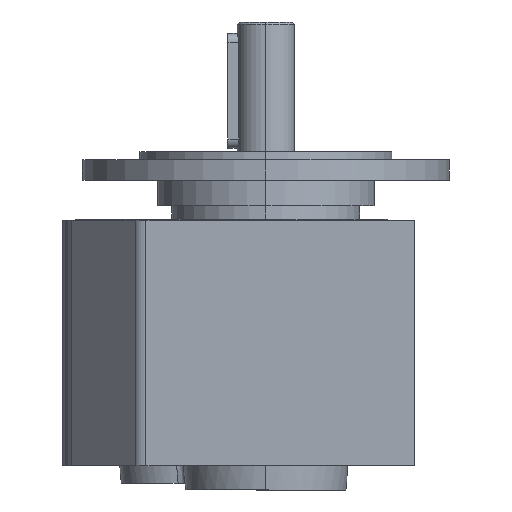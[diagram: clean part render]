
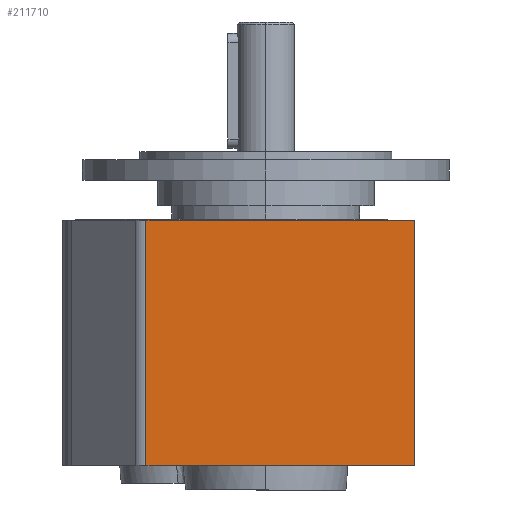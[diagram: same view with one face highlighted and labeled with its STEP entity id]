
A CAD part, left-side view. The second image highlights one B-rep face of the part: STEP entity #211710.
In plain terms, the highlighted planar face has unit normal (-1, 0, 0).
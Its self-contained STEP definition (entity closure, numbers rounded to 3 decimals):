
#143990=CARTESIAN_POINT('',(-366.958,-223.495,
-8.483));
#144000=VERTEX_POINT('',#143990);
#144080=CARTESIAN_POINT('',(-366.958,-223.495,
98.517));
#144090=VERTEX_POINT('',#144080);
#144120=CARTESIAN_POINT('',(-366.958,-223.495,
-23.483));
#144130=DIRECTION('',(0.,0.,-1.));
#144140=VECTOR('',#144130,1.);
#144150=LINE('',#144120,#144140);
#144160=EDGE_CURVE('',#144090,#144000,#144150,.T.);
#144310=CARTESIAN_POINT('',(-366.958,-340.697,
98.517));
#144320=VERTEX_POINT('',#144310);
#144500=CARTESIAN_POINT('',(-366.958,-340.697,
-8.483));
#144510=VERTEX_POINT('',#144500);
#144540=CARTESIAN_POINT('',(-366.958,-340.697,
81.767));
#144550=DIRECTION('',(0.,0.,1.));
#144560=VECTOR('',#144550,1.);
#144570=LINE('',#144540,#144560);
#144580=EDGE_CURVE('',#144510,#144320,#144570,.T.);
#145260=CARTESIAN_POINT('',(-366.958,-289.799,
-8.483));
#145270=DIRECTION('',(0.,-1.,0.));
#145280=VECTOR('',#145270,1.);
#145290=LINE('',#145260,#145280);
#145300=EDGE_CURVE('',#144000,#144510,#145290,.T.);
#177270=CARTESIAN_POINT('',(-366.958,-289.799,
98.517));
#177280=DIRECTION('',(0.,1.,0.));
#177290=VECTOR('',#177280,1.);
#177300=LINE('',#177270,#177290);
#177310=EDGE_CURVE('',#144320,#144090,#177300,.T.);
#211600=CARTESIAN_POINT('',(-366.958,-202.995,
-29.983));
#211610=DIRECTION('',(-1.,0.,0.));
#211620=DIRECTION('',(0.,0.,1.));
#211630=AXIS2_PLACEMENT_3D('',#211600,#211610,#211620);
#211640=PLANE('',#211630);
#211650=ORIENTED_EDGE('',*,*,#144580,.T.);
#211660=ORIENTED_EDGE('',*,*,#145300,.T.);
#211670=ORIENTED_EDGE('',*,*,#144160,.T.);
#211680=ORIENTED_EDGE('',*,*,#177310,.T.);
#211690=EDGE_LOOP('',(#211680,#211670,#211660,#211650));
#211700=FACE_OUTER_BOUND('',#211690,.T.);
#211710=ADVANCED_FACE('',(#211700),#211640,.T.);
